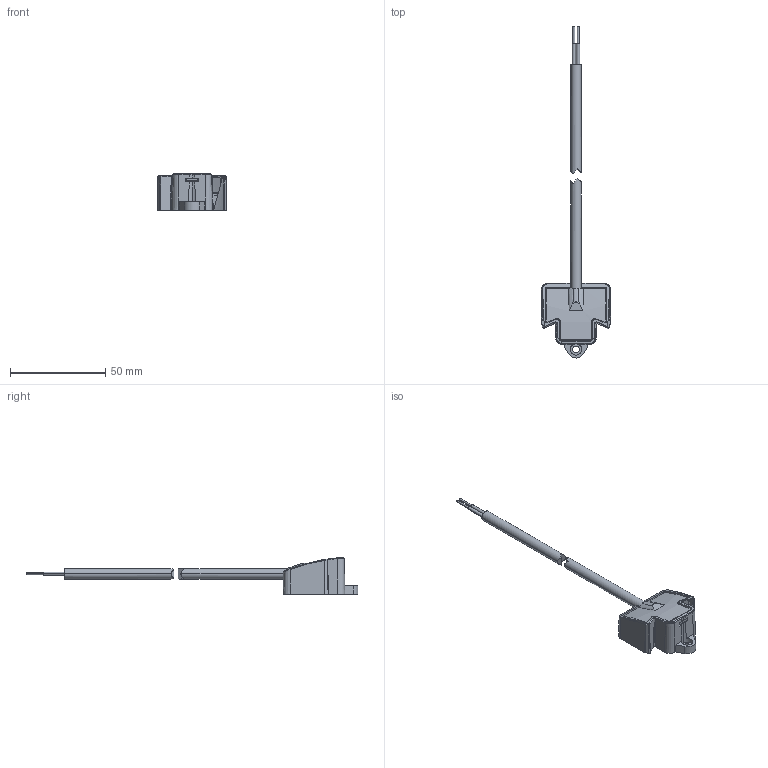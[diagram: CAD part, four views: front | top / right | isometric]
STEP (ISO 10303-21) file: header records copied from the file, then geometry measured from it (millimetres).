
FILE_DESCRIPTION((''),'2;1');
FILE_NAME('16212204_DLA-G2-CONNECTOR','2022-10-10T11:33:00',('Bernhard.Fink'),(''),'CREO PARAMETRIC BY PTC INC, 2021184','CREO PARAMETRIC BY PTC INC, 2021184','');
FILE_SCHEMA(('CONFIG_CONTROL_DESIGN'));
Length unit declared in the file: millimetre
Products named in the file (1): 16212204_DLA-G2-CONNECTOR
Bounding box: 36.3 x 173.85 x 19.2 mm (x, y, z)
Volume: 3080.5 mm3; surface area: 14232.1 mm2
Topology: 3 solids, 6 shells, 485 faces, 1337 edges, 874 vertices
Faces by surface type: plane 298, cylinder 85, bspline 55, cone 47
Entity records: 45376 total; most frequent: CARTESIAN_POINT 33745, ORIENTED_EDGE 2606, DIRECTION 1997, EDGE_CURVE 1336, VERTEX_POINT 874, VECTOR 817, LINE 817, AXIS2_PLACEMENT_3D 590
